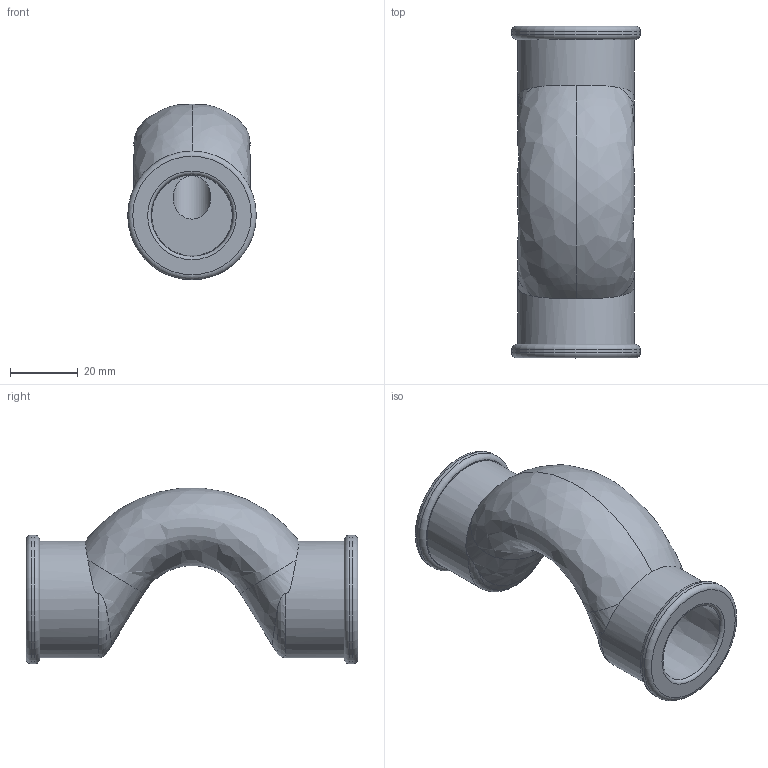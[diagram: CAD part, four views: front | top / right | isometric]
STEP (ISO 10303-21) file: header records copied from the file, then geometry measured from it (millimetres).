
FILE_DESCRIPTION(('STEP AP203'), '1');
FILE_NAME('ÂÐ.747111.023 - VTp.776.S.025', '', ('UNSPECIFIED'), ('UNSPECIFIED'), 'C3D Converter', 'C3D Toolkit', '');
FILE_SCHEMA(('CONFIG_CONTROL_DESIGN'));
Length unit declared in the file: millimetre
Products named in the file (1): ВР.747111.023
Bounding box: 38 x 98 x 51.87 mm (x, y, z)
Volume: 62990.3 mm3; surface area: 18640 mm2
Topology: 1 solids, 1 shells, 31 faces, 69 edges, 42 vertices
Faces by surface type: torus 9, plane 8, cylinder 6, cone 4, bspline 4
Full cylindrical faces by diameter (mm): 11.12 x2, 34.5 x2, 38 x2
Entity records: 2070 total; most frequent: CARTESIAN_POINT 1461, ORIENTED_EDGE 106, DIRECTION 104, EDGE_CURVE 53, AXIS2_PLACEMENT_3D 52, EDGE_LOOP 51, VERTEX_POINT 42, ADVANCED_FACE 31
